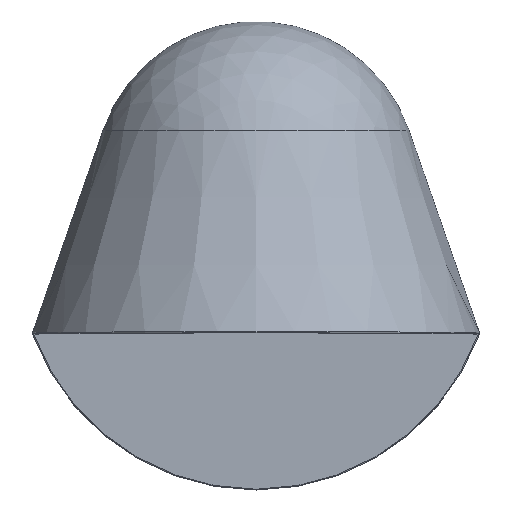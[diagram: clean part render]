
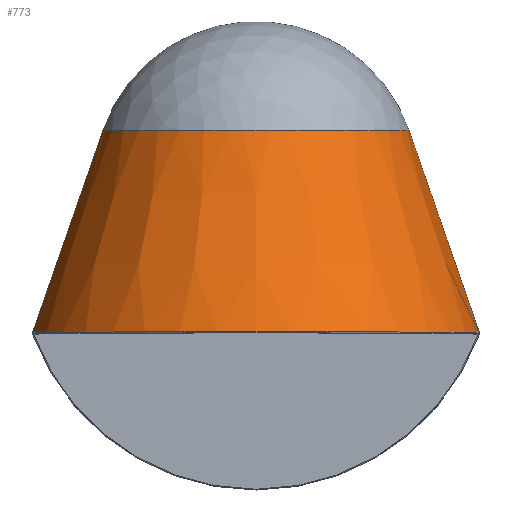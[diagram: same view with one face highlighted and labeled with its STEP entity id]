
A CAD part, top view. The second image highlights one B-rep face of the part: STEP entity #773.
In plain terms, the highlighted conical face has half-angle 19.156 degrees and reference radius 70.325 mm.
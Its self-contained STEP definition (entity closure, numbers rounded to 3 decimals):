
#35=CONICAL_SURFACE('',#910,70.325,0.334);
#60=LINE('',#1265,#94);
#68=LINE('',#1609,#102);
#94=VECTOR('',#996,10.);
#102=VECTOR('',#1054,10.);
#159=FACE_OUTER_BOUND('',#212,.T.);
#212=EDGE_LOOP('',(#583,#584,#585,#586,#587,#588));
#261=B_SPLINE_CURVE_WITH_KNOTS('',3,(#1575,#1576,#1577,#1578),
 .UNSPECIFIED.,.F.,.F.,(4,4),(-0.572,-0.517),
 .UNSPECIFIED.);
#262=B_SPLINE_CURVE_WITH_KNOTS('',3,(#1605,#1606,#1607,#1608),
 .UNSPECIFIED.,.F.,.F.,(4,4),(-0.572,-0.517),
 .UNSPECIFIED.);
#297=CIRCLE('',#909,57.15);
#298=CIRCLE('',#911,83.362);
#337=VERTEX_POINT('',#1259);
#338=VERTEX_POINT('',#1264);
#352=VERTEX_POINT('',#1573);
#358=VERTEX_POINT('',#1596);
#359=VERTEX_POINT('',#1602);
#360=VERTEX_POINT('',#1604);
#408=EDGE_CURVE('',#337,#338,#60,.T.);
#431=EDGE_CURVE('',#337,#352,#261,.T.);
#442=EDGE_CURVE('',#338,#358,#297,.T.);
#443=EDGE_CURVE('',#352,#359,#298,.T.);
#444=EDGE_CURVE('',#360,#359,#262,.T.);
#445=EDGE_CURVE('',#360,#358,#68,.T.);
#583=ORIENTED_EDGE('',*,*,#443,.T.);
#584=ORIENTED_EDGE('',*,*,#444,.F.);
#585=ORIENTED_EDGE('',*,*,#445,.T.);
#586=ORIENTED_EDGE('',*,*,#442,.F.);
#587=ORIENTED_EDGE('',*,*,#408,.F.);
#588=ORIENTED_EDGE('',*,*,#431,.T.);
#773=ADVANCED_FACE('',(#159),#35,.T.);
#909=AXIS2_PLACEMENT_3D('',#1600,#1048,#1049);
#910=AXIS2_PLACEMENT_3D('',#1601,#1050,#1051);
#911=AXIS2_PLACEMENT_3D('',#1603,#1052,#1053);
#996=DIRECTION('',(0.328,0.945,0.));
#1048=DIRECTION('center_axis',(0.,1.,0.));
#1049=DIRECTION('ref_axis',(-1.,0.,0.));
#1050=DIRECTION('center_axis',(0.,-1.,0.));
#1051=DIRECTION('ref_axis',(1.,0.,0.));
#1052=DIRECTION('center_axis',(0.,1.,0.));
#1053=DIRECTION('ref_axis',(0.003,0.,1.));
#1054=DIRECTION('',(-0.328,0.945,0.));
#1259=CARTESIAN_POINT('',(-83.423,58.723,1.8));
#1264=CARTESIAN_POINT('',(-57.15,134.353,1.8));
#1265=CARTESIAN_POINT('',(-83.5,58.5,1.8));
#1573=CARTESIAN_POINT('',(-83.36,58.898,2.302));
#1575=CARTESIAN_POINT('Ctrl Pts',(-83.423,58.723,1.8));
#1576=CARTESIAN_POINT('Ctrl Pts',(-83.384,58.834,1.939));
#1577=CARTESIAN_POINT('Ctrl Pts',(-83.361,58.898,2.12));
#1578=CARTESIAN_POINT('Ctrl Pts',(-83.36,58.898,2.302));
#1596=CARTESIAN_POINT('',(57.15,134.353,1.8));
#1600=CARTESIAN_POINT('Origin',(0.,134.353,
1.8));
#1601=CARTESIAN_POINT('Origin',(0.,96.426,1.8));
#1602=CARTESIAN_POINT('',(83.36,58.898,2.302));
#1603=CARTESIAN_POINT('Origin',(0.,58.898,
1.8));
#1604=CARTESIAN_POINT('',(83.423,58.723,1.8));
#1605=CARTESIAN_POINT('Ctrl Pts',(83.423,58.723,1.8));
#1606=CARTESIAN_POINT('Ctrl Pts',(83.384,58.834,1.939));
#1607=CARTESIAN_POINT('Ctrl Pts',(83.361,58.898,2.12));
#1608=CARTESIAN_POINT('Ctrl Pts',(83.36,58.898,2.302));
#1609=CARTESIAN_POINT('',(83.5,58.5,1.8));
